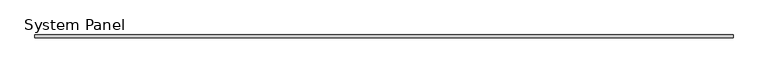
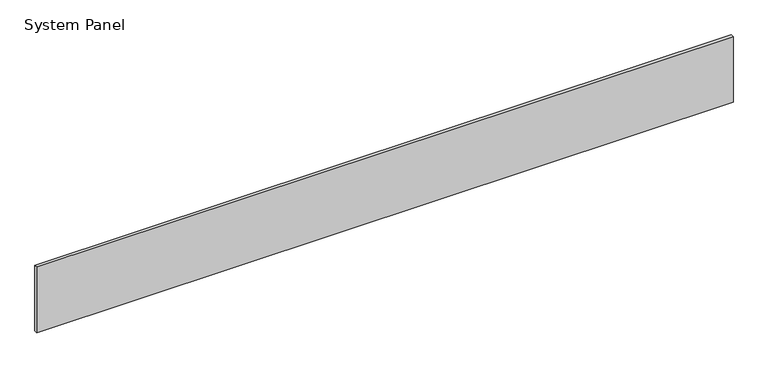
"""IFC4 building model written with IfcOpenShell, lengths in millimetres: plate geometry, System Panel : Equitilt_50mm_Plain_Surfmist."""

from ifc_helpers import new_model, si_unit, origin, origin_with_axes, place, context, project, spatial, polyline, outline, extrude, source, transform, mapped, element, save


def system_panel_d07f9d4c(model_context):
    return source(origin(), model_context, "Body", "SweptSolid", [
        extrude(outline(polyline([(6000.0, 0.0), (-6000.0, 0.0), (-6000.0, 50.0), (6000.0, 50.0), (6000.0, 0.0)])), origin_with_axes(), (0.0, 0.0, 1.0), 1200.0),
    ])


if __name__ == "__main__":
    model = new_model("IFC4")
    model_context = context("Model", 3, world=origin())
    ifc_project = project(units=[si_unit("LENGTHUNIT", "METRE", prefix="MILLI")], contexts=[model_context])
    site = spatial("IfcSite", under=ifc_project)
    building = spatial("IfcBuilding", under=site)
    placement = place(None, origin())
    system_panel_shape = system_panel_d07f9d4c(model_context)
    element("IfcPlate", 1, ObjectType="System Panel : Equitilt_50mm_Plain_Surfmist", at=placement, inside=building, context=model_context, shape_type="MappedRepresentation", body=[
        mapped(system_panel_shape, transform((0.0, 0.0, 0.0), x_axis=(1.0, 0.0, 0.0), y_axis=(0.0, 1.0, 0.0), z_axis=(0.0, 0.0, 1.0))),
    ])
    save(model, "model.ifc")
